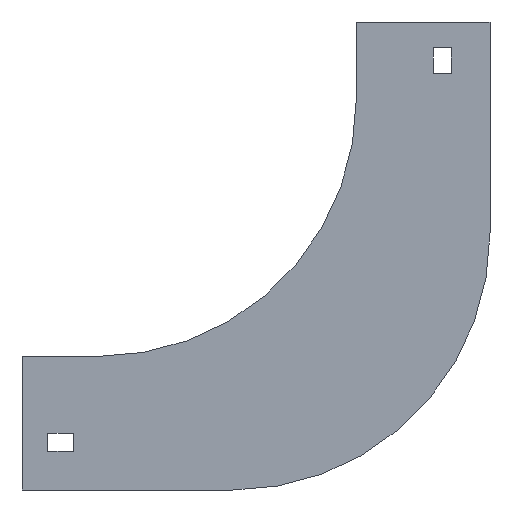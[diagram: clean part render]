
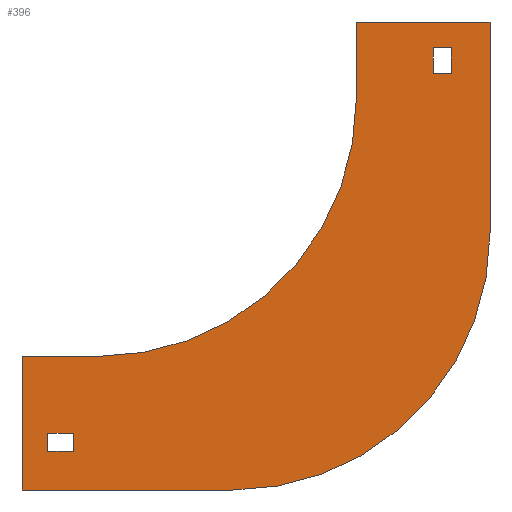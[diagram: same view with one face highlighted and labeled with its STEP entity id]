
A CAD part, left-side view. The second image highlights one B-rep face of the part: STEP entity #396.
In plain terms, the highlighted planar face has unit normal (-1, 0, 0).
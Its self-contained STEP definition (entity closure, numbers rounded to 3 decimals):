
#8 = CARTESIAN_POINT ( 'NONE',  ( -52., 100., -30. ) ) ;
#12 = LINE ( 'NONE', #1321, #618 ) ;
#15 = CARTESIAN_POINT ( 'NONE',  ( -52., -52., 0. ) ) ;
#25 = DIRECTION ( 'NONE',  ( 0., 0., 1. ) ) ;
#44 = VECTOR ( 'NONE', #236, 1000. ) ;
#53 = EDGE_CURVE ( 'NONE', #963, #321, #293, .T. ) ;
#73 = VERTEX_POINT ( 'NONE', #743 ) ;
#81 = EDGE_CURVE ( 'NONE', #751, #1393, #958, .T. ) ;
#85 = DIRECTION ( 'NONE',  ( 0., 0., -1. ) ) ;
#143 = VERTEX_POINT ( 'NONE', #771 ) ;
#157 = ORIENTED_EDGE ( 'NONE', *, *, #871, .T. ) ;
#164 = VECTOR ( 'NONE', #85, 1000. ) ;
#166 = ORIENTED_EDGE ( 'NONE', *, *, #843, .F. ) ;
#168 = DIRECTION ( 'NONE',  ( 0., 0., 1. ) ) ;
#170 = VERTEX_POINT ( 'NONE', #923 ) ;
#191 = DIRECTION ( 'NONE',  ( 0., 0., 1. ) ) ;
#200 = CARTESIAN_POINT ( 'NONE',  ( -52., -52., -82. ) ) ;
#209 = DIRECTION ( 'NONE',  ( 0., 0., -1. ) ) ;
#212 = VERTEX_POINT ( 'NONE', #469 ) ;
#226 = AXIS2_PLACEMENT_3D ( 'NONE', #1258, #938, #168 ) ;
#233 = CARTESIAN_POINT ( 'NONE',  ( -52., 110., -160. ) ) ;
#236 = DIRECTION ( 'NONE',  ( 0., -1., 0. ) ) ;
#240 = FACE_OUTER_BOUND ( 'NONE', #734, .T. ) ;
#267 = ORIENTED_EDGE ( 'NONE', *, *, #53, .F. ) ;
#293 = LINE ( 'NONE', #308, #616 ) ;
#305 = LINE ( 'NONE', #552, #1362 ) ;
#308 = CARTESIAN_POINT ( 'NONE',  ( -52., 0., 0. ) ) ;
#309 = CARTESIAN_POINT ( 'NONE',  ( -52., 0., -30. ) ) ;
#310 = ORIENTED_EDGE ( 'NONE', *, *, #854, .F. ) ;
#313 = CARTESIAN_POINT ( 'NONE',  ( -52., -30., -10. ) ) ;
#321 = VERTEX_POINT ( 'NONE', #1291 ) ;
#322 = VERTEX_POINT ( 'NONE', #313 ) ;
#333 = ORIENTED_EDGE ( 'NONE', *, *, #694, .T. ) ;
#345 = LINE ( 'NONE', #776, #462 ) ;
#347 = CARTESIAN_POINT ( 'NONE',  ( -52., 100., -30. ) ) ;
#348 = EDGE_CURVE ( 'NONE', #1326, #143, #12, .T. ) ;
#353 = DIRECTION ( 'NONE',  ( 0., 1., 0. ) ) ;
#360 = VECTOR ( 'NONE', #353, 1000. ) ;
#370 = CARTESIAN_POINT ( 'NONE',  ( -52., 130., -182. ) ) ;
#375 = CARTESIAN_POINT ( 'NONE',  ( -52., 100., -130. ) ) ;
#394 = ORIENTED_EDGE ( 'NONE', *, *, #957, .F. ) ;
#396 = ADVANCED_FACE ( 'NONE', ( #240, #787, #670 ), #664, .F. ) ;
#397 = ORIENTED_EDGE ( 'NONE', *, *, #348, .F. ) ;
#405 = VECTOR ( 'NONE', #25, 1000. ) ;
#409 = VERTEX_POINT ( 'NONE', #991 ) ;
#436 = VERTEX_POINT ( 'NONE', #375 ) ;
#454 = DIRECTION ( 'NONE',  ( 0., -1., 0. ) ) ;
#461 = CIRCLE ( 'NONE', #1009, 100. ) ;
#462 = VECTOR ( 'NONE', #1217, 1000. ) ;
#469 = CARTESIAN_POINT ( 'NONE',  ( -52., -52., -82. ) ) ;
#478 = AXIS2_PLACEMENT_3D ( 'NONE', #8, #995, #1095 ) ;
#498 = CARTESIAN_POINT ( 'NONE',  ( -52., 120., -167. ) ) ;
#504 = EDGE_CURVE ( 'NONE', #212, #751, #838, .T. ) ;
#517 = DIRECTION ( 'NONE',  ( 0., -1., 0. ) ) ;
#520 = ORIENTED_EDGE ( 'NONE', *, *, #504, .F. ) ;
#527 = VECTOR ( 'NONE', #517, 1000. ) ;
#528 = VECTOR ( 'NONE', #454, 1000. ) ;
#552 = CARTESIAN_POINT ( 'NONE',  ( -52., -30., -10. ) ) ;
#562 = EDGE_CURVE ( 'NONE', #170, #1306, #823, .T. ) ;
#571 = LINE ( 'NONE', #1027, #405 ) ;
#574 = VERTEX_POINT ( 'NONE', #1049 ) ;
#582 = EDGE_CURVE ( 'NONE', #574, #409, #1372, .T. ) ;
#612 = CARTESIAN_POINT ( 'NONE',  ( -52., 130., -130. ) ) ;
#616 = VECTOR ( 'NONE', #191, 1000. ) ;
#618 = VECTOR ( 'NONE', #1339, 1000. ) ;
#658 = VECTOR ( 'NONE', #726, 1000. ) ;
#660 = DIRECTION ( 'NONE',  ( 0., 1., 0. ) ) ;
#664 = PLANE ( 'NONE',  #478 ) ;
#669 = DIRECTION ( 'NONE',  ( 0., 0., 1. ) ) ;
#670 = FACE_BOUND ( 'NONE', #1022, .T. ) ;
#672 = LINE ( 'NONE', #799, #44 ) ;
#680 = ORIENTED_EDGE ( 'NONE', *, *, #1162, .F. ) ;
#694 = EDGE_CURVE ( 'NONE', #1165, #322, #571, .T. ) ;
#702 = ORIENTED_EDGE ( 'NONE', *, *, #1300, .F. ) ;
#720 = VECTOR ( 'NONE', #209, 1000. ) ;
#726 = DIRECTION ( 'NONE',  ( 0., 0., 1. ) ) ;
#734 = EDGE_LOOP ( 'NONE', ( #310, #267, #680, #166, #394, #1156, #520, #1373 ) ) ;
#743 = CARTESIAN_POINT ( 'NONE',  ( -52., 130., -130. ) ) ;
#747 = LINE ( 'NONE', #200, #720 ) ;
#751 = VERTEX_POINT ( 'NONE', #756 ) ;
#756 = CARTESIAN_POINT ( 'NONE',  ( -52., 48., -182. ) ) ;
#762 = ORIENTED_EDGE ( 'NONE', *, *, #562, .T. ) ;
#771 = CARTESIAN_POINT ( 'NONE',  ( -52., 120., -160. ) ) ;
#776 = CARTESIAN_POINT ( 'NONE',  ( -52., 120., -160. ) ) ;
#784 = CARTESIAN_POINT ( 'NONE',  ( -52., 110., -160. ) ) ;
#787 = FACE_BOUND ( 'NONE', #1282, .T. ) ;
#799 = CARTESIAN_POINT ( 'NONE',  ( -52., 100., -130. ) ) ;
#811 = ORIENTED_EDGE ( 'NONE', *, *, #582, .F. ) ;
#823 = LINE ( 'NONE', #944, #164 ) ;
#838 = CIRCLE ( 'NONE', #226, 100. ) ;
#843 = EDGE_CURVE ( 'NONE', #73, #436, #672, .T. ) ;
#850 = CARTESIAN_POINT ( 'NONE',  ( -52., -52., 0. ) ) ;
#854 = EDGE_CURVE ( 'NONE', #321, #1070, #997, .T. ) ;
#871 = EDGE_CURVE ( 'NONE', #1306, #1165, #1148, .T. ) ;
#896 = CARTESIAN_POINT ( 'NONE',  ( -52., -37., -20. ) ) ;
#923 = CARTESIAN_POINT ( 'NONE',  ( -52., -37., -10. ) ) ;
#938 = DIRECTION ( 'NONE',  ( 1., 0., 0. ) ) ;
#944 = CARTESIAN_POINT ( 'NONE',  ( -52., -37., -10. ) ) ;
#957 = EDGE_CURVE ( 'NONE', #1393, #73, #1288, .T. ) ;
#958 = LINE ( 'NONE', #996, #1401 ) ;
#963 = VERTEX_POINT ( 'NONE', #309 ) ;
#991 = CARTESIAN_POINT ( 'NONE',  ( -52., 110., -167. ) ) ;
#995 = DIRECTION ( 'NONE',  ( 1., 0., 0. ) ) ;
#996 = CARTESIAN_POINT ( 'NONE',  ( -52., 130., -182. ) ) ;
#997 = LINE ( 'NONE', #15, #528 ) ;
#1000 = CARTESIAN_POINT ( 'NONE',  ( -52., -30., -20. ) ) ;
#1003 = LINE ( 'NONE', #233, #1264 ) ;
#1009 = AXIS2_PLACEMENT_3D ( 'NONE', #347, #1207, #1312 ) ;
#1016 = EDGE_CURVE ( 'NONE', #322, #170, #305, .T. ) ;
#1022 = EDGE_LOOP ( 'NONE', ( #702, #397, #1074, #811 ) ) ;
#1027 = CARTESIAN_POINT ( 'NONE',  ( -52., -30., -10. ) ) ;
#1049 = CARTESIAN_POINT ( 'NONE',  ( -52., 120., -167. ) ) ;
#1070 = VERTEX_POINT ( 'NONE', #850 ) ;
#1074 = ORIENTED_EDGE ( 'NONE', *, *, #1109, .F. ) ;
#1089 = DIRECTION ( 'NONE',  ( 0., -1., 0. ) ) ;
#1093 = CARTESIAN_POINT ( 'NONE',  ( -52., -30., -20. ) ) ;
#1095 = DIRECTION ( 'NONE',  ( 0., 0., -1. ) ) ;
#1109 = EDGE_CURVE ( 'NONE', #409, #1326, #1003, .T. ) ;
#1148 = LINE ( 'NONE', #1000, #360 ) ;
#1156 = ORIENTED_EDGE ( 'NONE', *, *, #81, .F. ) ;
#1162 = EDGE_CURVE ( 'NONE', #436, #963, #461, .T. ) ;
#1165 = VERTEX_POINT ( 'NONE', #1093 ) ;
#1207 = DIRECTION ( 'NONE',  ( -1., 0., 0. ) ) ;
#1217 = DIRECTION ( 'NONE',  ( 0., 0., -1. ) ) ;
#1258 = CARTESIAN_POINT ( 'NONE',  ( -52., 48., -82. ) ) ;
#1264 = VECTOR ( 'NONE', #669, 1000. ) ;
#1275 = ORIENTED_EDGE ( 'NONE', *, *, #1016, .T. ) ;
#1282 = EDGE_LOOP ( 'NONE', ( #333, #1275, #762, #157 ) ) ;
#1288 = LINE ( 'NONE', #612, #658 ) ;
#1291 = CARTESIAN_POINT ( 'NONE',  ( -52., 0., 0. ) ) ;
#1300 = EDGE_CURVE ( 'NONE', #143, #574, #345, .T. ) ;
#1306 = VERTEX_POINT ( 'NONE', #896 ) ;
#1312 = DIRECTION ( 'NONE',  ( 0., 0., -1. ) ) ;
#1321 = CARTESIAN_POINT ( 'NONE',  ( -52., 120., -160. ) ) ;
#1326 = VERTEX_POINT ( 'NONE', #784 ) ;
#1339 = DIRECTION ( 'NONE',  ( 0., 1., 0. ) ) ;
#1354 = EDGE_CURVE ( 'NONE', #1070, #212, #747, .T. ) ;
#1362 = VECTOR ( 'NONE', #1089, 1000. ) ;
#1372 = LINE ( 'NONE', #498, #527 ) ;
#1373 = ORIENTED_EDGE ( 'NONE', *, *, #1354, .F. ) ;
#1393 = VERTEX_POINT ( 'NONE', #370 ) ;
#1401 = VECTOR ( 'NONE', #660, 1000. ) ;
